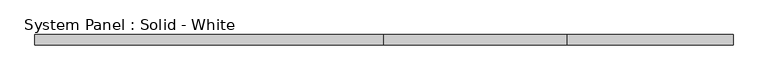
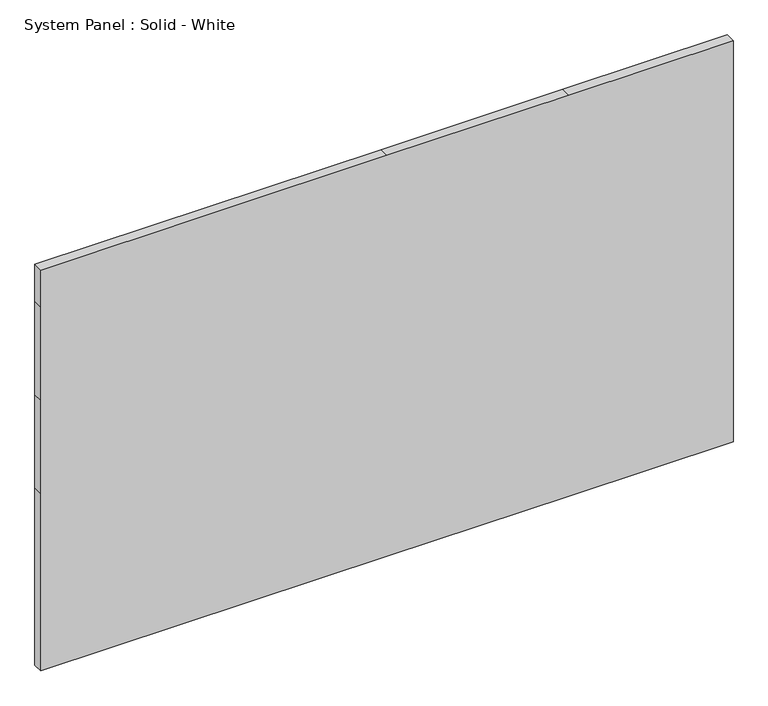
"""IFC4 building model written with IfcOpenShell, lengths in millimetres: plate geometry, System Panel : Solid - White."""

from ifc_helpers import new_model, si_unit, frame, origin, place, context, project, spatial, polyline, outline, extrude, source, transform, mapped, element, save


def system_panel_solid_white_42bdd3c1(model_context):
    return source(origin(), model_context, "Body", "SweptSolid", [
        extrude(outline(polyline([(0.0, -2136.3214286), (0.0, -2e-07), (0.0, 1122.5892858), (0.0, 2136.3214286), (1155.7, 2136.3214286), (1765.3, 2136.3214286), (2374.9, 2136.3214286), (2616.2, 2136.3214286), (2616.2, 1122.5892858), (2616.2, -2e-07), (2616.2, -2136.3214286), (2374.9, -2136.3214286), (1765.3, -2136.3214286), (1155.7, -2136.3214286), (0.0, -2136.3214286)])), frame((0.0, -19.05, 0.0), z_axis=(0.0, 1.0, 0.0), x_axis=(0.0, 0.0, 1.0)), (0.0, 0.0, 1.0), 63.5),
    ])


if __name__ == "__main__":
    model = new_model("IFC4")
    model_context = context("Model", 3, world=origin())
    ifc_project = project(units=[si_unit("LENGTHUNIT", "METRE", prefix="MILLI")], contexts=[model_context])
    site = spatial("IfcSite", under=ifc_project)
    building = spatial("IfcBuilding", under=site)
    placement = place(None, origin())
    system_panel_solid_white_shape = system_panel_solid_white_42bdd3c1(model_context)
    element("IfcPlate", 1, ObjectType="System Panel : Solid - White", at=placement, inside=building, context=model_context, shape_type="MappedRepresentation", body=[
        mapped(system_panel_solid_white_shape, transform((0.0, 0.0, 0.0), x_axis=(1.0, 0.0, 0.0), y_axis=(0.0, 1.0, 0.0), z_axis=(0.0, 0.0, 1.0))),
    ])
    save(model, "model.ifc")
